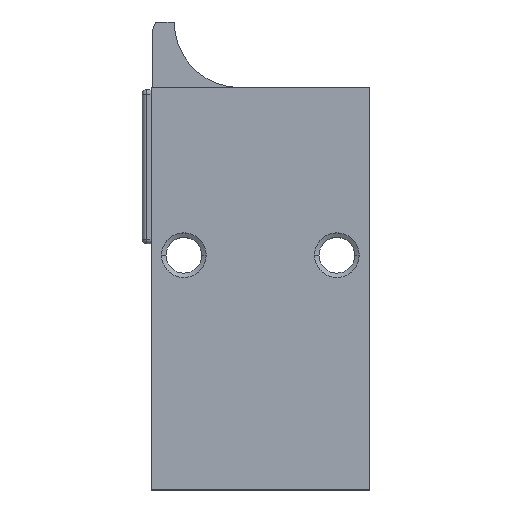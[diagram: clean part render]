
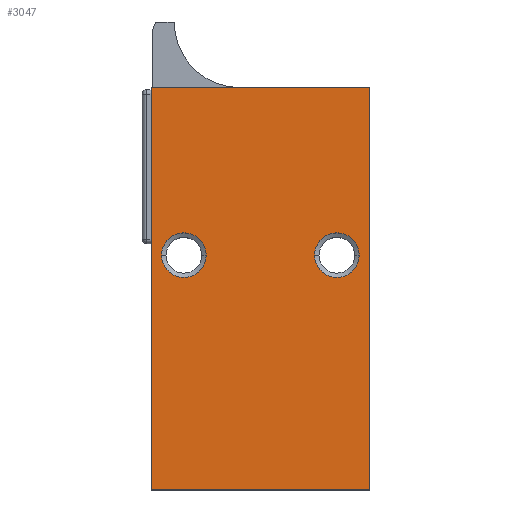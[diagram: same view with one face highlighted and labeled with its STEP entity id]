
A CAD part, top view. The second image highlights one B-rep face of the part: STEP entity #3047.
In plain terms, the highlighted planar face has unit normal (0, 0, 1).
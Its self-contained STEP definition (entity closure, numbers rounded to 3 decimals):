
#53 = CIRCLE ( 'NONE', #2773, 5.1 ) ;
#70 = FACE_BOUND ( 'NONE', #3247, .T. ) ;
#71 = FACE_BOUND ( 'NONE', #3236, .T. ) ;
#116 = FACE_OUTER_BOUND ( 'NONE', #3173, .T. ) ;
#235 = CARTESIAN_POINT ( 'NONE',  ( 0., 92., 40. ) ) ;
#246 = CARTESIAN_POINT ( 'NONE',  ( 47.6, 53.65, 40. ) ) ;
#262 = CARTESIAN_POINT ( 'NONE',  ( 2.4, 53.65, 40. ) ) ;
#398 = CARTESIAN_POINT ( 'NONE',  ( 7.5, 53.65, 40. ) ) ;
#410 = DIRECTION ( 'NONE',  ( 0., 0., 1. ) ) ;
#415 = DIRECTION ( 'NONE',  ( 1., 0., 0. ) ) ;
#591 = VECTOR ( 'NONE', #1137, 1000. ) ;
#604 = LINE ( 'NONE', #1325, #591 ) ;
#627 = CARTESIAN_POINT ( 'NONE',  ( 50., 92., 40. ) ) ;
#631 = CARTESIAN_POINT ( 'NONE',  ( 37.4, 53.65, 40. ) ) ;
#665 = CARTESIAN_POINT ( 'NONE',  ( 12.6, 53.65, 40. ) ) ;
#690 = CARTESIAN_POINT ( 'NONE',  ( 0., 0., 40. ) ) ;
#704 = AXIS2_PLACEMENT_3D ( 'NONE', #2122, #2048, #2106 ) ;
#719 = EDGE_CURVE ( 'NONE', #2001, #2120, #2660, .T. ) ;
#918 = DIRECTION ( 'NONE',  ( 0., 0., 1. ) ) ;
#935 = DIRECTION ( 'NONE',  ( 1., 0., 0. ) ) ;
#936 = CARTESIAN_POINT ( 'NONE',  ( 0., 0., 40. ) ) ;
#1110 = CARTESIAN_POINT ( 'NONE',  ( 0., 0., 40. ) ) ;
#1131 = DIRECTION ( 'NONE',  ( 1., 0., 0. ) ) ;
#1132 = DIRECTION ( 'NONE',  ( 1., 0., 0. ) ) ;
#1136 = DIRECTION ( 'NONE',  ( 0., -1., 0. ) ) ;
#1137 = DIRECTION ( 'NONE',  ( 0., 1., 0. ) ) ;
#1157 = DIRECTION ( 'NONE',  ( -1., 0., 0. ) ) ;
#1170 = CARTESIAN_POINT ( 'NONE',  ( 7.5, 53.65, 40. ) ) ;
#1173 = DIRECTION ( 'NONE',  ( 0., 0., 1. ) ) ;
#1174 = CARTESIAN_POINT ( 'NONE',  ( 42.5, 53.65, 40. ) ) ;
#1325 = CARTESIAN_POINT ( 'NONE',  ( 50., 0., 40. ) ) ;
#1334 = CARTESIAN_POINT ( 'NONE',  ( 0., 92., 40. ) ) ;
#1362 = EDGE_CURVE ( 'NONE', #2074, #1977, #53, .T. ) ;
#1427 = CARTESIAN_POINT ( 'NONE',  ( 50., 0., 40. ) ) ;
#1548 = CIRCLE ( 'NONE', #3799, 5.1 ) ;
#1613 = VECTOR ( 'NONE', #1157, 1000. ) ;
#1615 = LINE ( 'NONE', #1334, #1613 ) ;
#1624 = VECTOR ( 'NONE', #1136, 1000. ) ;
#1625 = LINE ( 'NONE', #1110, #1624 ) ;
#1641 = CIRCLE ( 'NONE', #3806, 5.1 ) ;
#1659 = LINE ( 'NONE', #936, #1664 ) ;
#1664 = VECTOR ( 'NONE', #935, 1000. ) ;
#1977 = VERTEX_POINT ( 'NONE', #262 ) ;
#2001 = VERTEX_POINT ( 'NONE', #246 ) ;
#2048 = DIRECTION ( 'NONE',  ( 0., 0., 1. ) ) ;
#2058 = VERTEX_POINT ( 'NONE', #235 ) ;
#2074 = VERTEX_POINT ( 'NONE', #665 ) ;
#2080 = VERTEX_POINT ( 'NONE', #627 ) ;
#2106 = DIRECTION ( 'NONE',  ( 1., 0., 0. ) ) ;
#2120 = VERTEX_POINT ( 'NONE', #631 ) ;
#2122 = CARTESIAN_POINT ( 'NONE',  ( 42.5, 53.65, 40. ) ) ;
#2170 = VERTEX_POINT ( 'NONE', #690 ) ;
#2208 = VERTEX_POINT ( 'NONE', #1427 ) ;
#2660 = CIRCLE ( 'NONE', #704, 5.1 ) ;
#2773 = AXIS2_PLACEMENT_3D ( 'NONE', #398, #410, #415 ) ;
#3047 = ADVANCED_FACE ( 'NONE', ( #70, #71, #116 ), #3669, .F. ) ;
#3173 = EDGE_LOOP ( 'NONE', ( #3419, #3422, #3420, #3201 ) ) ;
#3201 = ORIENTED_EDGE ( 'NONE', *, *, #3279, .T. ) ;
#3236 = EDGE_LOOP ( 'NONE', ( #3372, #3439 ) ) ;
#3247 = EDGE_LOOP ( 'NONE', ( #3415, #3457 ) ) ;
#3265 = EDGE_CURVE ( 'NONE', #2208, #2080, #604, .T. ) ;
#3279 = EDGE_CURVE ( 'NONE', #2080, #2058, #1615, .T. ) ;
#3283 = EDGE_CURVE ( 'NONE', #2170, #2208, #1659, .T. ) ;
#3306 = EDGE_CURVE ( 'NONE', #2058, #2170, #1625, .T. ) ;
#3372 = ORIENTED_EDGE ( 'NONE', *, *, #1362, .F. ) ;
#3379 = AXIS2_PLACEMENT_3D ( 'NONE', #3664, #3671, #3673 ) ;
#3415 = ORIENTED_EDGE ( 'NONE', *, *, #719, .F. ) ;
#3419 = ORIENTED_EDGE ( 'NONE', *, *, #3306, .T. ) ;
#3420 = ORIENTED_EDGE ( 'NONE', *, *, #3265, .T. ) ;
#3422 = ORIENTED_EDGE ( 'NONE', *, *, #3283, .T. ) ;
#3439 = ORIENTED_EDGE ( 'NONE', *, *, #3465, .F. ) ;
#3457 = ORIENTED_EDGE ( 'NONE', *, *, #3468, .F. ) ;
#3465 = EDGE_CURVE ( 'NONE', #1977, #2074, #1641, .T. ) ;
#3468 = EDGE_CURVE ( 'NONE', #2120, #2001, #1548, .T. ) ;
#3664 = CARTESIAN_POINT ( 'NONE',  ( 0., 92., 40. ) ) ;
#3669 = PLANE ( 'NONE',  #3379 ) ;
#3671 = DIRECTION ( 'NONE',  ( 0., 0., -1. ) ) ;
#3673 = DIRECTION ( 'NONE',  ( -1., 0., 0. ) ) ;
#3799 = AXIS2_PLACEMENT_3D ( 'NONE', #1174, #1173, #1131 ) ;
#3806 = AXIS2_PLACEMENT_3D ( 'NONE', #1170, #918, #1132 ) ;
